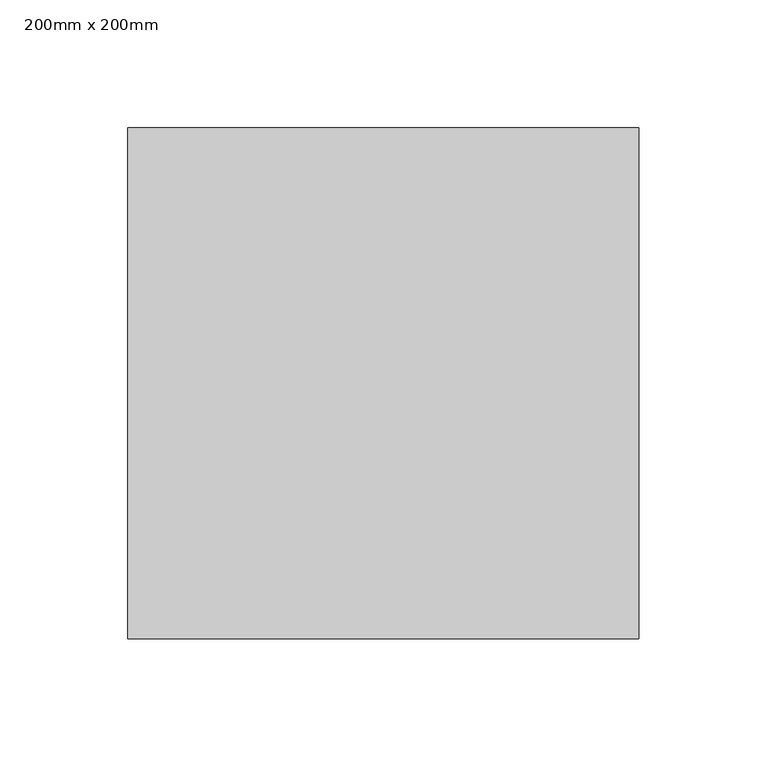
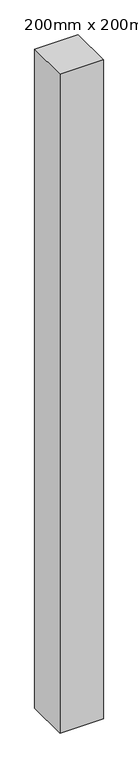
"""IFC4 building model written with IfcOpenShell, lengths in millimetres: column geometry, Poteau béton - Carré : 200mm x 200mm."""

from ifc_helpers import new_model, si_unit, frame, origin, place, context, project, spatial, polyline, outline, extrude, source, transform, mapped, element, save


def column_200mm_x_200mm_b0a69769(model_context):
    return source(origin(), model_context, "Body", "SweptSolid", [
        extrude(outline(polyline([(100.0, 100.0), (100.0, -100.0), (-100.0, -100.0), (-100.0, 100.0), (100.0, 100.0)])), frame((0.0, 0.0, 3750.0), z_axis=(0.0, 0.0, 1.0), x_axis=(1.0, 0.0, 0.0)), (0.0, 0.0, 1.0), 3200.0),
    ])


if __name__ == "__main__":
    model = new_model("IFC4")
    model_context = context("Model", 3, world=origin())
    ifc_project = project(units=[si_unit("LENGTHUNIT", "METRE", prefix="MILLI")], contexts=[model_context])
    site = spatial("IfcSite", under=ifc_project)
    building = spatial("IfcBuilding", under=site)
    placement = place(None, origin())
    column_200mm_x_200mm_shape = column_200mm_x_200mm_b0a69769(model_context)
    element("IfcColumn", 1, ObjectType="Poteau béton - Carré : 200mm x 200mm", at=placement, inside=building, context=model_context, shape_type="MappedRepresentation", body=[
        mapped(column_200mm_x_200mm_shape, transform((0.0, 0.0, 0.0), x_axis=(1.0, 0.0, 0.0), y_axis=(0.0, 1.0, 0.0), z_axis=(0.0, 0.0, 1.0))),
    ])
    save(model, "model.ifc")
